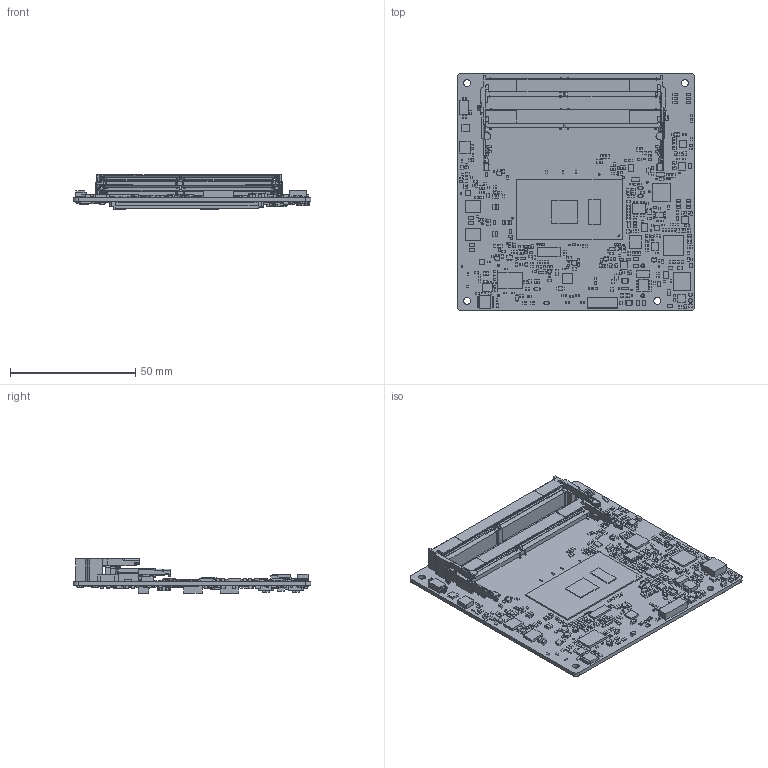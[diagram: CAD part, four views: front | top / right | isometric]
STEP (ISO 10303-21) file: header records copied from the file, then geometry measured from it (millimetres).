
FILE_DESCRIPTION((''),'2;1');
FILE_NAME('ESM-KBLU_ASSY_ASM','2018-09-17T11:56:46',('isaac_lin'),(''),'CREO PARAMETRIC BY PTC INC, 2017110','CREO PARAMETRIC BY PTC INC, 2017110','');
FILE_SCHEMA(('CONFIG_CONTROL_DESIGN'));
Products named in the file (70): ESM-BYT2_PCB_2_1; CPU-U_2C_GT2-15W_1_1; _X2_30BD30EA30C330C9_X0_1-8846_; _X2_30BD30EA30C330C9_X0_2_2_1; E16A37D040CH_1_ASM_2_ASM_1_ASM; E1654XV0000R_1_1_1; E14S5F00701H_1_1; E123130256AH_1_1; 0030000032_1_1; E14S3364200H_1_1; E121220102DH_1_1; E14S3800300H_1_1; E14S3820700H_1_1; E14S4021900H_1_1; E1212204727H_1_1; E14S4751700H_1_1; E14S6399046H_1_1; E14S4751101H_1_1; E1060700002H_1_1; E1213103004H_1_1; E1213101215H_1_1; E1231332727H_1_1; A-R0603_1_1; R0402_1_1; E0030100001_1_1; A-R0402_1_1; E0030100000_1_1; E1211201530H_1_1; E1212204714H_1_1; E1212201520H_1_1; E118X633782H_1_1; E1301055140R_1_1; E1301075140R_1_1; E1305032340H_1_1; E1301034040H_1_1; A-C0805_1_1; A-C0603_1_1; A-C0402_1_1; E1301005440H_1_1; E1315013812H_1_1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
Assembly tree (1044 placements, depth 4):
  ESM-KBLU_ASSY_ASM
    ESM-KBLU_ASSY_ASM_1_ASM
      ESM-BYT2_PCB_2_1
      CPU-U_2C_GT2-15W_1_1
      E16A37D040CH_1_ASM_2_ASM_1_ASM
        _X2_30BD30EA30C330C9_X0_1-8846_
        _X2_30BD30EA30C330C9_X0_2_2_1
      E1654XV0000R_1_1_1  x2
      ESM-KBLU_A0-M_ASM_4_ASM_1_ASM
        E14S5F00701H_1_1
        E123130256AH_1_1
        0030000032_1_1  x27
        E14S3364200H_1_1
        E121220102DH_1_1
        E14S3800300H_1_1
        E14S3820700H_1_1
        E14S4021900H_1_1
        E1212204727H_1_1
        E14S4751700H_1_1
        E14S6399046H_1_1
        E14S4751101H_1_1
        E1060700002H_1_1  x12
        E1213103004H_1_1  x9
        E1213101215H_1_1
        E1231332727H_1_1  x2
        A-R0603_1_1  x7
        R0402_1_1  x3
        E0030100001_1_1  x14
        A-R0402_1_1  x331
        E0030100000_1_1  x6
        E1211201530H_1_1
        E1212204714H_1_1
        E1212201520H_1_1
        E118X633782H_1_1  x3
        E1301055140R_1_1
        E1301075140R_1_1  x11
        E1305032340H_1_1  x2
        E1301034040H_1_1  x2
        A-C0805_1_1  x23
        A-C0603_1_1  x131
        A-C0402_1_1  x384
        E1301005440H_1_1
        E1315013812H_1_1  x4
        E1600020201R_1_1
        E1231302764H_1_1  x2
        E14S9068200H_1_1
        E14S5F12502H_1_1  x2
        E14S5X10700H_1_1  x4
        E1315700214H_1_1
        E1315442510H_1_1
        E1060701031H_1_1  x4
        E14S5920800H_1_1  x3
        E14S6225802H_1_1
        E14S5F12500H_1_1  x2
        E1314593010H_1_1
        E14S3580800H_1_1  x3
        E1315151610H_1_1  x3
        E1315793410H_1_1
        E14S3133600H_1_1  x2
        E1314562010H_1_1  x2
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Bounding box: 95 x 95 x 13.77 mm (x, y, z)
Volume: 24577.8 mm3; surface area: 37995.7 mm2
Topology: 1041 solids, 1041 shells, 12932 faces, 32287 edges, 21458 vertices
Faces by surface type: plane 11886, cylinder 998, bspline 28, cone 13, extrusion 4, torus 3
Entity records: 166575 total; most frequent: CARTESIAN_POINT 31860, DIRECTION 28339, ORIENTED_EDGE 26730, EDGE_CURVE 13365, VECTOR 11735, LINE 11731, VERTEX_POINT 8846, AXIS2_PLACEMENT_3D 8302
